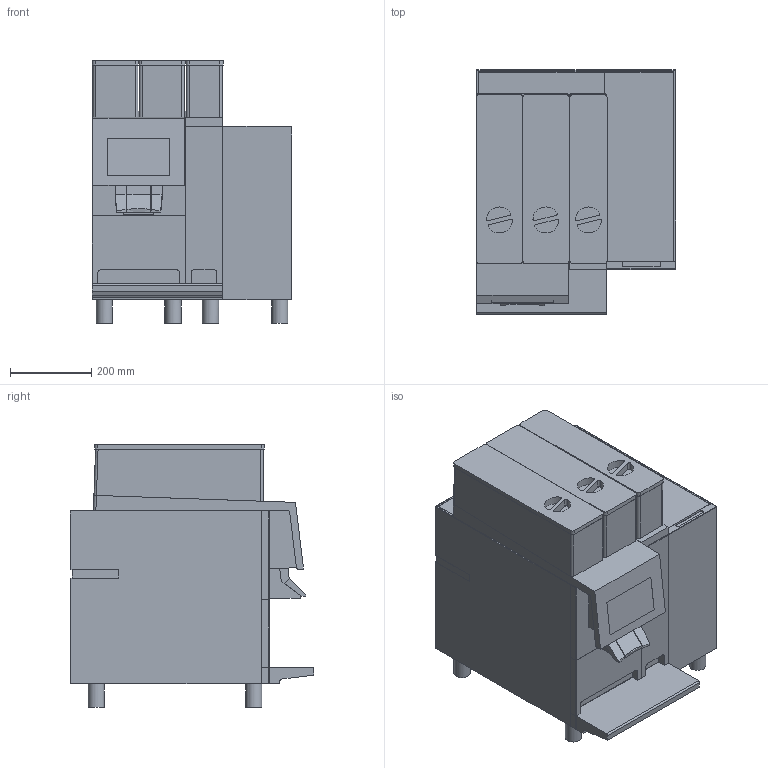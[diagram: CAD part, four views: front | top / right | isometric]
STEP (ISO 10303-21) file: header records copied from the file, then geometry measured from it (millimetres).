
FILE_DESCRIPTION(/* description */ ('Unknown'),/* implementation_level */ '2;1');
FILE_NAME(/* name */ 'HM_BW4c-CTM-P-F',/* time_stamp */ '2026-08-14T14:28:22+02:00',/* author */ ('Unknown'),/* organization */ ('Unknown'),/* preprocessor_version */ 'ST-DEVELOPER v20',/* originating_system */ 'Solid Edge',/* authorisation */ 'Unknown');
FILE_SCHEMA (('AUTOMOTIVE_DESIGN {1 0 10303 214 3 1 1}'));
Length unit declared in the file: millimetre
Products named in the file (1): HM_BW4c-CTM-P-F
Bounding box: 491.3 x 599.39 x 645.98 mm (x, y, z)
Volume: 126786592.2 mm3; surface area: 2149745.7 mm2
Topology: 1 solids, 1 shells, 326 faces, 887 edges, 571 vertices
Faces by surface type: plane 230, cylinder 92, sphere 4
Full cylindrical faces by diameter (mm): 40 x8
Entity records: 12471 total; most frequent: CARTESIAN_POINT 1767, ORIENTED_EDGE 1744, DIRECTION 1726, EDGE_CURVE 872, LINE 672, VECTOR 672, VERTEX_POINT 568, AXIS2_PLACEMENT_3D 527
